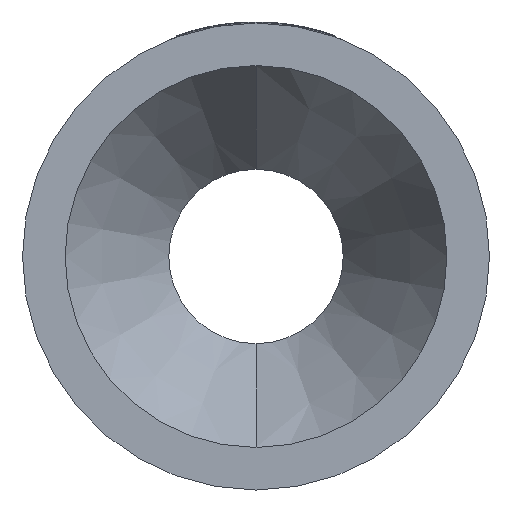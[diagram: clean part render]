
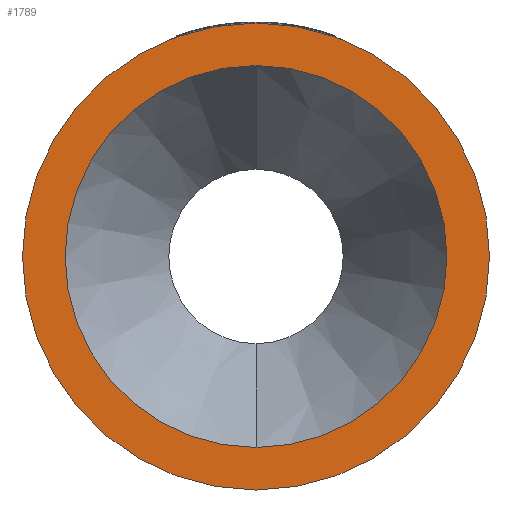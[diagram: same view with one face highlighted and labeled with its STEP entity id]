
A CAD part, left-side view. The second image highlights one B-rep face of the part: STEP entity #1789.
In plain terms, the highlighted planar face has unit normal (-1, 0, 0).
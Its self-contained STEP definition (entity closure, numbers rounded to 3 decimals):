
#138 = VERTEX_POINT ( 'NONE', #2222 ) ;
#429 = AXIS2_PLACEMENT_3D ( 'NONE', #1826, #1795, #1783 ) ;
#607 = VERTEX_POINT ( 'NONE', #3558 ) ;
#1204 = CIRCLE ( 'NONE', #1757, 92. ) ;
#1443 = ORIENTED_EDGE ( 'NONE', *, *, #1546, .F. ) ;
#1495 = CARTESIAN_POINT ( 'NONE',  ( 0., 0., -92. ) ) ;
#1546 = EDGE_CURVE ( 'NONE', #2684, #3357, #3507, .T. ) ;
#1583 = DIRECTION ( 'NONE',  ( 0., 0., 1. ) ) ;
#1590 = EDGE_CURVE ( 'NONE', #138, #607, #2434, .T. ) ;
#1596 = DIRECTION ( 'NONE',  ( -1., 0., 0. ) ) ;
#1611 = CARTESIAN_POINT ( 'NONE',  ( 0., 0., 0. ) ) ;
#1616 = ORIENTED_EDGE ( 'NONE', *, *, #3078, .F. ) ;
#1757 = AXIS2_PLACEMENT_3D ( 'NONE', #3560, #3549, #3504 ) ;
#1783 = DIRECTION ( 'NONE',  ( 0., 0., -1. ) ) ;
#1789 = ADVANCED_FACE ( 'NONE', ( #3377, #3284 ), #2036, .F. ) ;
#1795 = DIRECTION ( 'NONE',  ( 1., 0., 0. ) ) ;
#1826 = CARTESIAN_POINT ( 'NONE',  ( 0., 92., 0. ) ) ;
#2036 = PLANE ( 'NONE',  #429 ) ;
#2114 = AXIS2_PLACEMENT_3D ( 'NONE', #1611, #1596, #1583 ) ;
#2199 = DIRECTION ( 'NONE',  ( 0., 0., 1. ) ) ;
#2222 = CARTESIAN_POINT ( 'NONE',  ( 0., 0., -112.5 ) ) ;
#2262 = DIRECTION ( 'NONE',  ( -1., 0., 0. ) ) ;
#2275 = CARTESIAN_POINT ( 'NONE',  ( 0., 0., 0. ) ) ;
#2332 = CARTESIAN_POINT ( 'NONE',  ( 0., 0., 92. ) ) ;
#2362 = EDGE_CURVE ( 'NONE', #607, #138, #3095, .T. ) ;
#2409 = EDGE_LOOP ( 'NONE', ( #1443, #1616 ) ) ;
#2434 = CIRCLE ( 'NONE', #2574, 112.5 ) ;
#2505 = DIRECTION ( 'NONE',  ( 0., 0., 1. ) ) ;
#2518 = DIRECTION ( 'NONE',  ( -1., 0., 0. ) ) ;
#2530 = CARTESIAN_POINT ( 'NONE',  ( 0., 0., 0. ) ) ;
#2574 = AXIS2_PLACEMENT_3D ( 'NONE', #2275, #2262, #2199 ) ;
#2590 = AXIS2_PLACEMENT_3D ( 'NONE', #2530, #2518, #2505 ) ;
#2629 = ORIENTED_EDGE ( 'NONE', *, *, #1590, .T. ) ;
#2684 = VERTEX_POINT ( 'NONE', #2332 ) ;
#2732 = ORIENTED_EDGE ( 'NONE', *, *, #2362, .T. ) ;
#3078 = EDGE_CURVE ( 'NONE', #3357, #2684, #1204, .T. ) ;
#3095 = CIRCLE ( 'NONE', #2114, 112.5 ) ;
#3284 = FACE_OUTER_BOUND ( 'NONE', #3341, .T. ) ;
#3341 = EDGE_LOOP ( 'NONE', ( #2732, #2629 ) ) ;
#3357 = VERTEX_POINT ( 'NONE', #1495 ) ;
#3377 = FACE_BOUND ( 'NONE', #2409, .T. ) ;
#3504 = DIRECTION ( 'NONE',  ( 0., 0., 1. ) ) ;
#3507 = CIRCLE ( 'NONE', #2590, 92. ) ;
#3549 = DIRECTION ( 'NONE',  ( -1., 0., 0. ) ) ;
#3558 = CARTESIAN_POINT ( 'NONE',  ( 0., 0., 112.5 ) ) ;
#3560 = CARTESIAN_POINT ( 'NONE',  ( 0., 0., 0. ) ) ;
